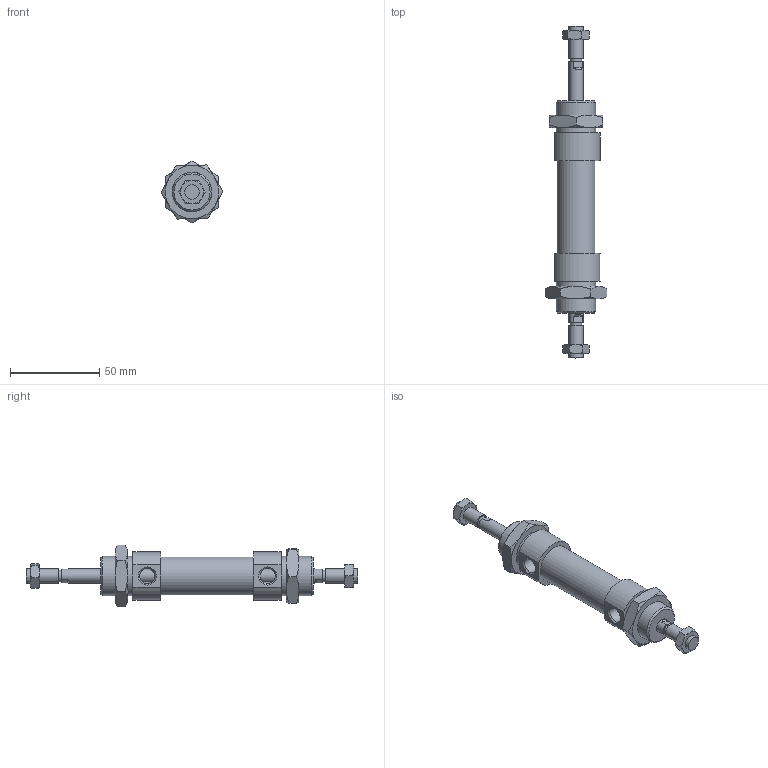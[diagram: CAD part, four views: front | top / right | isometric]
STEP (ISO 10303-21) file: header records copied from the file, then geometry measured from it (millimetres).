
FILE_DESCRIPTION((''),'2;1');
FILE_NAME('I:\Area Tecnica\Disegni\VARIE-3D\Componenti\1280\1282_##_####_#\1282_20_0015.iam.stp','2009-06-03T15:25:05',(''),(''),'Autodesk Inventor 2010','Autodesk Inventor 2010','');
FILE_SCHEMA(('AUTOMOTIVE_DESIGN { 1 0 10303 214 1 1 1 1 }'));
Length unit declared in the file: millimetre
Products named in the file (5): 1282_20_0015; C1282_20_15; S1282_20_15; 1200_20_05; 1200_20_06
Assembly tree (6 placements, depth 2):
  1282_20_0015
    C1282_20_15
    S1282_20_15
    1200_20_05  x2
    1200_20_06  x2
Bounding box: 34.64 x 186 x 34.64 mm (x, y, z)
Volume: 58717.3 mm3; surface area: 22920.2 mm2
Topology: 6 solids, 6 shells, 141 faces, 309 edges, 184 vertices
Faces by surface type: plane 60, cone 52, bspline 18, cylinder 11
Full cylindrical faces by diameter (mm): 6.5 x2, 8 x4, 21.2 x1, 22 x2
Entity records: 2813 total; most frequent: CARTESIAN_POINT 727, DIRECTION 386, ORIENTED_EDGE 352, EDGE_CURVE 176, AXIS2_PLACEMENT_3D 169, EDGE_LOOP 132, VERTEX_POINT 116, STYLED_ITEM 99
